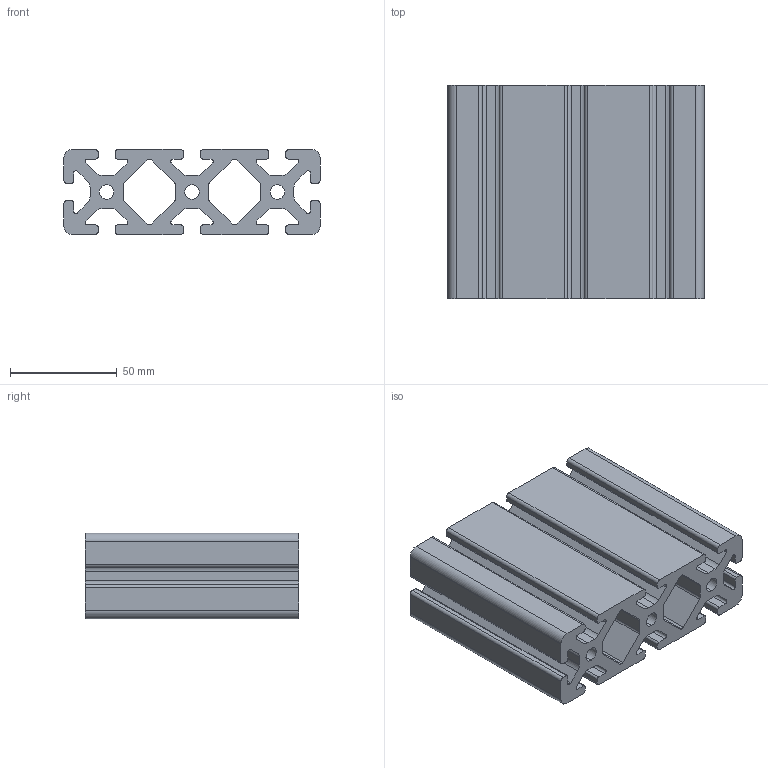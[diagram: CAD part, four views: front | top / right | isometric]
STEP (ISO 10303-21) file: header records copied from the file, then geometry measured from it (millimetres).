
FILE_DESCRIPTION (( 'STEP AP203' ), '1' );
FILE_NAME ('0108P12040S.STEP', '2024-02-28T08:00:06', ( 'Windows-Benutzer' ), ( '' ), 'SwSTEP 2.0', 'SolidWorks 2023', '' );
FILE_SCHEMA (( 'CONFIG_CONTROL_DESIGN' ));
Length unit declared in the file: millimetre
Products named in the file (1): 0108P12040S
Bounding box: 120 x 100 x 40 mm (x, y, z)
Volume: 248519.1 mm3; surface area: 89501.5 mm2
Topology: 1 solids, 1 shells, 172 faces, 510 edges, 340 vertices
Faces by surface type: cylinder 90, plane 82
Entity records: 5911 total; most frequent: DIRECTION 1036, CARTESIAN_POINT 1023, ORIENTED_EDGE 1020, EDGE_CURVE 510, AXIS2_PLACEMENT_3D 353, VERTEX_POINT 340, VECTOR 330, LINE 330
